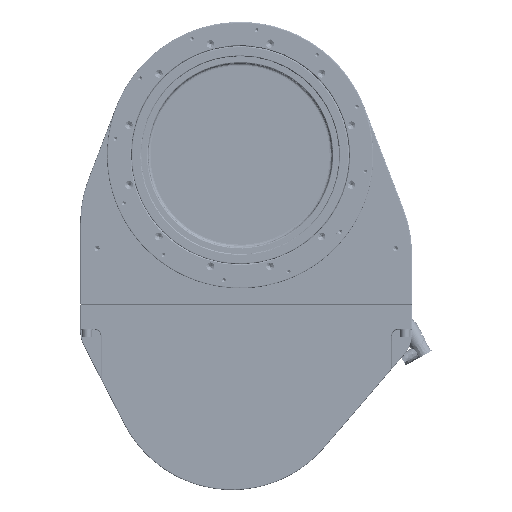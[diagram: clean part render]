
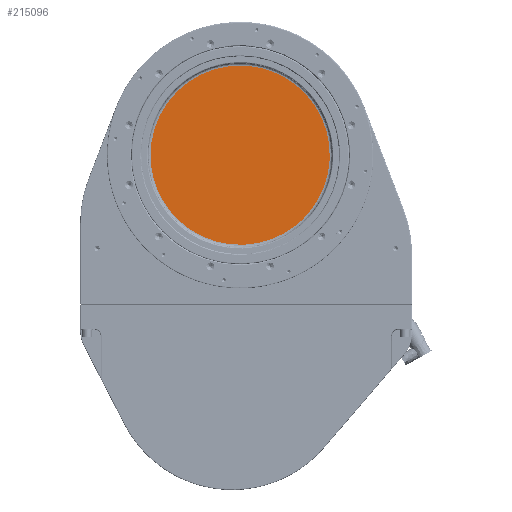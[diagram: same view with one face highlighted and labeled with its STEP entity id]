
A CAD part, top view. The second image highlights one B-rep face of the part: STEP entity #215096.
In plain terms, the highlighted free-form (B-spline) face has degree [1, 1] with [2, 2] control points.
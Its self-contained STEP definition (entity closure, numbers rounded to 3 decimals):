
#215070=CARTESIAN_POINT('F63',(158.406,
   -158.406,-11.75));
#215071=CARTESIAN_POINT('F63',(158.406,
   158.406,-11.75));
#215072=CARTESIAN_POINT('F63',(-158.406,
   -158.406,-11.75));
#215073=CARTESIAN_POINT('F63',(-158.406,
   158.406,-11.75));
#215074=QUASI_UNIFORM_SURFACE('F63',1,1,((#215070,#215072),(
   #215071,#215073)),.PLANE_SURF.,.F.,.F.,.U.);
#215075=CARTESIAN_POINT('V96',(0.,144.005,
   -11.75));
#215076=VERTEX_POINT('V96',#215075);
#215077=CARTESIAN_POINT('E162',(0.,144.005,
   -11.75));
#215078=CARTESIAN_POINT('E162',(249.424,
   144.005,-11.75));
#215079=CARTESIAN_POINT('E162',(124.712,
   -72.003,-11.75));
#215080=CARTESIAN_POINT('E162',(0.,-288.01,
   -11.75));
#215081=CARTESIAN_POINT('E162',(-124.712,
   -72.003,-11.75));
#215082=CARTESIAN_POINT('E162',(-249.424,
   144.005,-11.75));
#215083=CARTESIAN_POINT('E162',(0.,144.005,
   -11.75));
#215091=(BOUNDED_CURVE()B_SPLINE_CURVE(2,(#215077,#215078,#215079,
   #215080,#215081,#215082,#215083),.CIRCULAR_ARC.,.T.,.U.)
   B_SPLINE_CURVE_WITH_KNOTS((3,2,2,3),(0.0,66.261,
   132.521,198.782),.UNSPECIFIED.)CURVE()
   GEOMETRIC_REPRESENTATION_ITEM()RATIONAL_B_SPLINE_CURVE((1.0,
   0.5,1.0,0.5,1.0,0.5,1.0)
   )REPRESENTATION_ITEM('E162'));
#215092=EDGE_CURVE('E162',#215076,#215076,#215091,.T.);
#215093=ORIENTED_EDGE('E162',*,*,#215092,.F.);
#215094=EDGE_LOOP('F63',(#215093));
#215095=FACE_OUTER_BOUND('F63',#215094,.F.);
#215096=ADVANCED_FACE('F63',(#215095),#215074,.F.);
